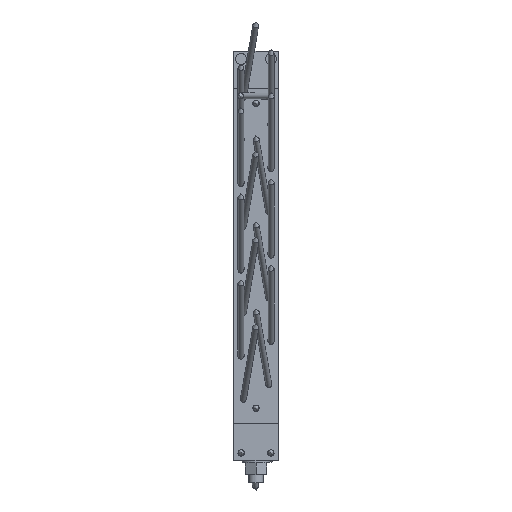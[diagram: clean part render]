
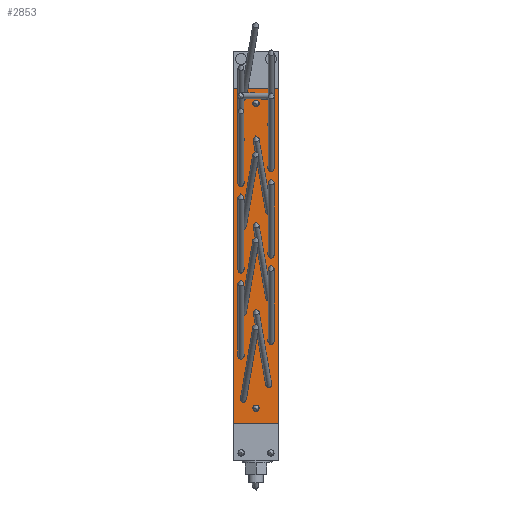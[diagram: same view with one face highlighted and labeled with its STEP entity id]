
A CAD part, top view. The second image highlights one B-rep face of the part: STEP entity #2853.
In plain terms, the highlighted planar face has unit normal (0, 0, 1) as drawn and (0, 0, -1) by its records, which use the part's own axes.
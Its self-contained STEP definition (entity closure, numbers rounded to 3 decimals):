
#332=CIRCLE('',#3345,4.25);
#333=CIRCLE('',#3346,4.25);
#430=ELLIPSE('',#3329,6.103,4.25);
#431=ELLIPSE('',#3330,6.103,4.25);
#432=ELLIPSE('',#3331,6.103,4.25);
#433=ELLIPSE('',#3332,6.01,4.25);
#434=ELLIPSE('',#3333,6.01,4.25);
#435=ELLIPSE('',#3334,6.103,4.25);
#436=ELLIPSE('',#3335,6.103,4.25);
#437=ELLIPSE('',#3336,6.01,4.25);
#438=ELLIPSE('',#3337,6.01,4.25);
#439=ELLIPSE('',#3338,6.103,4.25);
#440=ELLIPSE('',#3339,6.103,4.25);
#441=ELLIPSE('',#3340,4.316,4.25);
#442=ELLIPSE('',#3341,6.01,4.25);
#443=ELLIPSE('',#3342,6.01,4.25);
#444=ELLIPSE('',#3343,6.01,4.25);
#445=ELLIPSE('',#3344,6.01,4.25);
#537=ORIENTED_EDGE('',*,*,#1193,.F.);
#538=ORIENTED_EDGE('',*,*,#1194,.F.);
#539=ORIENTED_EDGE('',*,*,#1195,.F.);
#540=ORIENTED_EDGE('',*,*,#1196,.F.);
#541=ORIENTED_EDGE('',*,*,#1197,.F.);
#542=ORIENTED_EDGE('',*,*,#1198,.F.);
#543=ORIENTED_EDGE('',*,*,#1199,.F.);
#544=ORIENTED_EDGE('',*,*,#1200,.F.);
#545=ORIENTED_EDGE('',*,*,#1201,.F.);
#546=ORIENTED_EDGE('',*,*,#1202,.F.);
#547=ORIENTED_EDGE('',*,*,#1203,.F.);
#548=ORIENTED_EDGE('',*,*,#1204,.F.);
#549=ORIENTED_EDGE('',*,*,#1205,.F.);
#550=ORIENTED_EDGE('',*,*,#1206,.F.);
#551=ORIENTED_EDGE('',*,*,#1207,.F.);
#552=ORIENTED_EDGE('',*,*,#1208,.F.);
#553=ORIENTED_EDGE('',*,*,#1209,.F.);
#554=ORIENTED_EDGE('',*,*,#1210,.F.);
#555=ORIENTED_EDGE('',*,*,#1211,.F.);
#556=ORIENTED_EDGE('',*,*,#1212,.T.);
#557=ORIENTED_EDGE('',*,*,#1213,.T.);
#558=ORIENTED_EDGE('',*,*,#1191,.F.);
#1191=EDGE_CURVE('',#1516,#1517,#1765,.T.);
#1193=EDGE_CURVE('',#1518,#1518,#430,.T.);
#1194=EDGE_CURVE('',#1519,#1519,#431,.T.);
#1195=EDGE_CURVE('',#1520,#1520,#432,.T.);
#1196=EDGE_CURVE('',#1521,#1521,#433,.T.);
#1197=EDGE_CURVE('',#1522,#1522,#434,.T.);
#1198=EDGE_CURVE('',#1523,#1523,#435,.T.);
#1199=EDGE_CURVE('',#1524,#1524,#436,.T.);
#1200=EDGE_CURVE('',#1525,#1525,#437,.T.);
#1201=EDGE_CURVE('',#1526,#1526,#438,.T.);
#1202=EDGE_CURVE('',#1527,#1527,#439,.T.);
#1203=EDGE_CURVE('',#1528,#1528,#440,.T.);
#1204=EDGE_CURVE('',#1529,#1529,#441,.T.);
#1205=EDGE_CURVE('',#1530,#1530,#442,.T.);
#1206=EDGE_CURVE('',#1531,#1531,#443,.T.);
#1207=EDGE_CURVE('',#1532,#1532,#444,.T.);
#1208=EDGE_CURVE('',#1533,#1533,#445,.T.);
#1209=EDGE_CURVE('',#1534,#1534,#332,.T.);
#1210=EDGE_CURVE('',#1535,#1535,#333,.T.);
#1211=EDGE_CURVE('',#1536,#1516,#1767,.T.);
#1212=EDGE_CURVE('',#1536,#1537,#1768,.T.);
#1213=EDGE_CURVE('',#1537,#1517,#1769,.T.);
#1516=VERTEX_POINT('',#4704);
#1517=VERTEX_POINT('',#4706);
#1518=VERTEX_POINT('',#4710);
#1519=VERTEX_POINT('',#4712);
#1520=VERTEX_POINT('',#4714);
#1521=VERTEX_POINT('',#4716);
#1522=VERTEX_POINT('',#4718);
#1523=VERTEX_POINT('',#4720);
#1524=VERTEX_POINT('',#4722);
#1525=VERTEX_POINT('',#4724);
#1526=VERTEX_POINT('',#4726);
#1527=VERTEX_POINT('',#4728);
#1528=VERTEX_POINT('',#4730);
#1529=VERTEX_POINT('',#4732);
#1530=VERTEX_POINT('',#4734);
#1531=VERTEX_POINT('',#4736);
#1532=VERTEX_POINT('',#4738);
#1533=VERTEX_POINT('',#4740);
#1534=VERTEX_POINT('',#4742);
#1535=VERTEX_POINT('',#4744);
#1536=VERTEX_POINT('',#4746);
#1537=VERTEX_POINT('',#4748);
#1765=LINE('',#4705,#1977);
#1767=LINE('',#4745,#1979);
#1768=LINE('',#4747,#1980);
#1769=LINE('',#4749,#1981);
#1977=VECTOR('',#3760,1000.);
#1979=VECTOR('',#3800,1000.);
#1980=VECTOR('',#3801,1000.);
#1981=VECTOR('',#3802,1000.);
#2165=EDGE_LOOP('',(#537));
#2166=EDGE_LOOP('',(#538));
#2167=EDGE_LOOP('',(#539));
#2168=EDGE_LOOP('',(#540));
#2169=EDGE_LOOP('',(#541));
#2170=EDGE_LOOP('',(#542));
#2171=EDGE_LOOP('',(#543));
#2172=EDGE_LOOP('',(#544));
#2173=EDGE_LOOP('',(#545));
#2174=EDGE_LOOP('',(#546));
#2175=EDGE_LOOP('',(#547));
#2176=EDGE_LOOP('',(#548));
#2177=EDGE_LOOP('',(#549));
#2178=EDGE_LOOP('',(#550));
#2179=EDGE_LOOP('',(#551));
#2180=EDGE_LOOP('',(#552));
#2181=EDGE_LOOP('',(#553));
#2182=EDGE_LOOP('',(#554));
#2183=EDGE_LOOP('',(#555,#556,#557,#558));
#2473=FACE_BOUND('',#2165,.T.);
#2474=FACE_BOUND('',#2166,.T.);
#2475=FACE_BOUND('',#2167,.T.);
#2476=FACE_BOUND('',#2168,.T.);
#2477=FACE_BOUND('',#2169,.T.);
#2478=FACE_BOUND('',#2170,.T.);
#2479=FACE_BOUND('',#2171,.T.);
#2480=FACE_BOUND('',#2172,.T.);
#2481=FACE_BOUND('',#2173,.T.);
#2482=FACE_BOUND('',#2174,.T.);
#2483=FACE_BOUND('',#2175,.T.);
#2484=FACE_BOUND('',#2176,.T.);
#2485=FACE_BOUND('',#2177,.T.);
#2486=FACE_BOUND('',#2178,.T.);
#2487=FACE_BOUND('',#2179,.T.);
#2488=FACE_BOUND('',#2180,.T.);
#2489=FACE_BOUND('',#2181,.T.);
#2490=FACE_BOUND('',#2182,.T.);
#2491=FACE_BOUND('',#2183,.T.);
#2763=PLANE('',#3328);
#2853=ADVANCED_FACE('',(#2473,#2474,#2475,#2476,#2477,#2478,#2479,#2480,
#2481,#2482,#2483,#2484,#2485,#2486,#2487,#2488,#2489,#2490,#2491),#2763,
 .T.);
#3328=AXIS2_PLACEMENT_3D('',#4708,#3762,#3763);
#3329=AXIS2_PLACEMENT_3D('',#4709,#3764,#3765);
#3330=AXIS2_PLACEMENT_3D('',#4711,#3766,#3767);
#3331=AXIS2_PLACEMENT_3D('',#4713,#3768,#3769);
#3332=AXIS2_PLACEMENT_3D('',#4715,#3770,#3771);
#3333=AXIS2_PLACEMENT_3D('',#4717,#3772,#3773);
#3334=AXIS2_PLACEMENT_3D('',#4719,#3774,#3775);
#3335=AXIS2_PLACEMENT_3D('',#4721,#3776,#3777);
#3336=AXIS2_PLACEMENT_3D('',#4723,#3778,#3779);
#3337=AXIS2_PLACEMENT_3D('',#4725,#3780,#3781);
#3338=AXIS2_PLACEMENT_3D('',#4727,#3782,#3783);
#3339=AXIS2_PLACEMENT_3D('',#4729,#3784,#3785);
#3340=AXIS2_PLACEMENT_3D('',#4731,#3786,#3787);
#3341=AXIS2_PLACEMENT_3D('',#4733,#3788,#3789);
#3342=AXIS2_PLACEMENT_3D('',#4735,#3790,#3791);
#3343=AXIS2_PLACEMENT_3D('',#4737,#3792,#3793);
#3344=AXIS2_PLACEMENT_3D('',#4739,#3794,#3795);
#3345=AXIS2_PLACEMENT_3D('',#4741,#3796,#3797);
#3346=AXIS2_PLACEMENT_3D('',#4743,#3798,#3799);
#3760=DIRECTION('',(0.,-1.,0.));
#3762=DIRECTION('',(0.,0.,-1.));
#3763=DIRECTION('',(-1.,0.,0.));
#3764=DIRECTION('',(0.,0.,-1.));
#3765=DIRECTION('',(-0.171,0.985,0.));
#3766=DIRECTION('',(0.,0.,-1.));
#3767=DIRECTION('',(-0.171,0.985,0.));
#3768=DIRECTION('',(0.,0.,-1.));
#3769=DIRECTION('',(0.171,0.985,0.));
#3770=DIRECTION('',(0.,0.,-1.));
#3771=DIRECTION('',(0.,1.,0.));
#3772=DIRECTION('',(0.,0.,-1.));
#3773=DIRECTION('',(0.,1.,0.));
#3774=DIRECTION('',(0.,0.,-1.));
#3775=DIRECTION('',(-0.171,0.985,0.));
#3776=DIRECTION('',(0.,0.,-1.));
#3777=DIRECTION('',(0.171,0.985,0.));
#3778=DIRECTION('',(0.,0.,-1.));
#3779=DIRECTION('',(0.,1.,0.));
#3780=DIRECTION('',(0.,0.,-1.));
#3781=DIRECTION('',(0.,1.,0.));
#3782=DIRECTION('',(0.,0.,-1.));
#3783=DIRECTION('',(0.171,0.985,0.));
#3784=DIRECTION('',(0.,0.,-1.));
#3785=DIRECTION('',(-0.171,0.985,0.));
#3786=DIRECTION('',(0.,0.,-1.));
#3787=DIRECTION('',(1.,0.,0.));
#3788=DIRECTION('',(0.,0.,-1.));
#3789=DIRECTION('',(0.,1.,0.));
#3790=DIRECTION('',(0.,0.,-1.));
#3791=DIRECTION('',(0.,1.,0.));
#3792=DIRECTION('',(0.,0.,-1.));
#3793=DIRECTION('',(0.,1.,0.));
#3794=DIRECTION('',(0.,0.,-1.));
#3795=DIRECTION('',(0.,1.,0.));
#3796=DIRECTION('',(0.,0.,-1.));
#3797=DIRECTION('',(-1.,0.,0.));
#3798=DIRECTION('',(0.,0.,-1.));
#3799=DIRECTION('',(-1.,0.,0.));
#3800=DIRECTION('',(-1.,0.,0.));
#3801=DIRECTION('',(0.,-1.,0.));
#3802=DIRECTION('',(-1.,0.,0.));
#4704=CARTESIAN_POINT('',(0.,470.,0.));
#4705=CARTESIAN_POINT('',(0.,490.,0.));
#4706=CARTESIAN_POINT('',(0.,20.,0.));
#4708=CARTESIAN_POINT('',(0.,490.,0.));
#4709=CARTESIAN_POINT('',(13.277,29.687,0.));
#4710=CARTESIAN_POINT('',(12.232,35.7,0.));
#4711=CARTESIAN_POINT('',(13.277,435.694,0.));
#4712=CARTESIAN_POINT('',(12.232,441.707,0.));
#4713=CARTESIAN_POINT('',(46.723,415.69,0.));
#4714=CARTESIAN_POINT('',(47.768,421.703,0.));
#4715=CARTESIAN_POINT('',(50.25,358.,0.));
#4716=CARTESIAN_POINT('',(50.25,364.01,0.));
#4717=CARTESIAN_POINT('',(9.75,378.,0.));
#4718=CARTESIAN_POINT('',(9.75,384.01,0.));
#4719=CARTESIAN_POINT('',(13.277,319.693,0.));
#4720=CARTESIAN_POINT('',(12.232,325.706,0.));
#4721=CARTESIAN_POINT('',(46.723,299.704,0.));
#4722=CARTESIAN_POINT('',(47.768,305.717,0.));
#4723=CARTESIAN_POINT('',(50.25,242.,0.));
#4724=CARTESIAN_POINT('',(50.25,248.01,0.));
#4725=CARTESIAN_POINT('',(9.75,262.,0.));
#4726=CARTESIAN_POINT('',(9.75,268.01,0.));
#4727=CARTESIAN_POINT('',(46.723,183.695,0.));
#4728=CARTESIAN_POINT('',(47.768,189.708,0.));
#4729=CARTESIAN_POINT('',(13.277,203.692,0.));
#4730=CARTESIAN_POINT('',(12.232,209.705,0.));
#4731=CARTESIAN_POINT('',(46.723,30.,0.));
#4732=CARTESIAN_POINT('',(51.039,30.,0.));
#4733=CARTESIAN_POINT('',(9.75,146.,0.));
#4734=CARTESIAN_POINT('',(9.75,152.01,0.));
#4735=CARTESIAN_POINT('',(50.25,126.,0.));
#4736=CARTESIAN_POINT('',(50.25,132.01,0.));
#4737=CARTESIAN_POINT('',(50.25,68.,0.));
#4738=CARTESIAN_POINT('',(50.25,74.01,0.));
#4739=CARTESIAN_POINT('',(9.75,88.,0.));
#4740=CARTESIAN_POINT('',(9.75,94.01,0.));
#4741=CARTESIAN_POINT('',(30.,450.,0.));
#4742=CARTESIAN_POINT('',(25.75,450.,0.));
#4743=CARTESIAN_POINT('',(30.,40.,0.));
#4744=CARTESIAN_POINT('',(25.75,40.,0.));
#4745=CARTESIAN_POINT('',(100.,470.,0.));
#4746=CARTESIAN_POINT('',(60.,470.,0.));
#4747=CARTESIAN_POINT('',(60.,490.,0.));
#4748=CARTESIAN_POINT('',(60.,20.,0.));
#4749=CARTESIAN_POINT('',(357.205,20.,0.));
